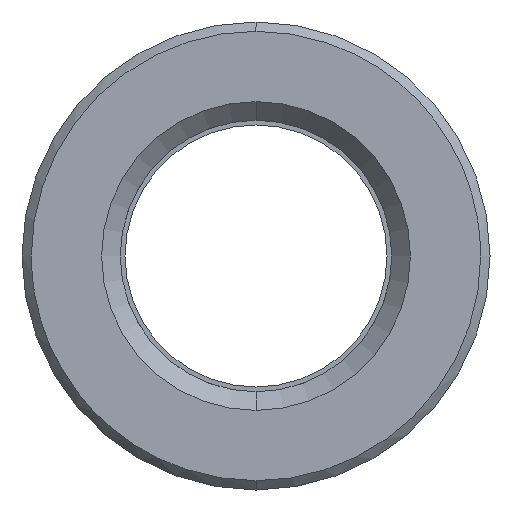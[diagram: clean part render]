
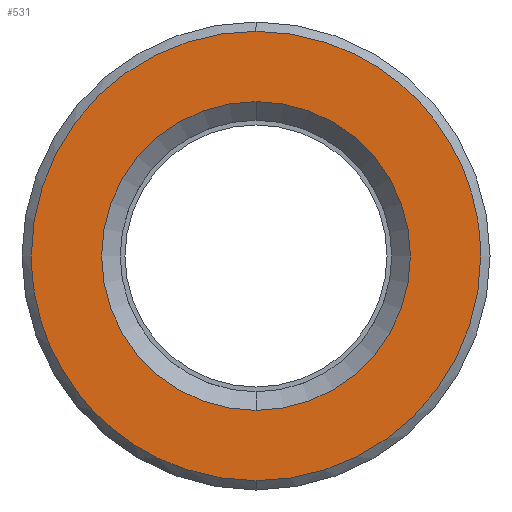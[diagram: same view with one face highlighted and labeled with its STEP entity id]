
A CAD part, left-side view. The second image highlights one B-rep face of the part: STEP entity #531.
In plain terms, the highlighted planar face has unit normal (-1, 0, 0).
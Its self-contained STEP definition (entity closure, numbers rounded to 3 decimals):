
#311=CARTESIAN_POINT('Axis2P3D Location',(0.,0.,0.)) ;
#315=CARTESIAN_POINT('Vertex',(0.,8.25,0.)) ;
#317=CARTESIAN_POINT('Vertex',(0.,0.,8.25)) ;
#320=CARTESIAN_POINT('Axis2P3D Location',(0.,0.,0.)) ;
#324=CARTESIAN_POINT('Vertex',(0.,0.,-8.25)) ;
#351=CARTESIAN_POINT('Axis2P3D Location',(0.,0.,0.)) ;
#355=CARTESIAN_POINT('Vertex',(0.,-8.25,0.)) ;
#358=CARTESIAN_POINT('Axis2P3D Location',(0.,0.,0.)) ;
#438=CARTESIAN_POINT('Axis2P3D Location',(0.,12.,0.)) ;
#444=CARTESIAN_POINT('Control Point',(0.,0.,-12.)) ;
#445=CARTESIAN_POINT('Control Point',(0.,0.982,-12.)) ;
#446=CARTESIAN_POINT('Control Point',(0.,1.964,-11.9)) ;
#447=CARTESIAN_POINT('Control Point',(0.,2.932,-11.699)) ;
#448=CARTESIAN_POINT('Control Point',(0.,5.011,-11.039)) ;
#449=CARTESIAN_POINT('Control Point',(0.,6.895,-9.93)) ;
#450=CARTESIAN_POINT('Control Point',(0.,7.845,-9.197)) ;
#451=CARTESIAN_POINT('Control Point',(0.,9.546,-7.512)) ;
#452=CARTESIAN_POINT('Control Point',(0.,10.784,-5.463)) ;
#453=CARTESIAN_POINT('Control Point',(0.,11.273,-4.367)) ;
#454=CARTESIAN_POINT('Control Point',(0.,11.741,-2.824)) ;
#455=CARTESIAN_POINT('Control Point',(0.,11.947,-1.236)) ;
#456=CARTESIAN_POINT('Control Point',(0.,11.982,-0.824)) ;
#457=CARTESIAN_POINT('Control Point',(0.,12.,-0.412)) ;
#458=CARTESIAN_POINT('Control Point',(0.,12.,0.)) ;
#459=CARTESIAN_POINT('Vertex',(0.,0.,-12.)) ;
#461=CARTESIAN_POINT('Vertex',(0.,12.,0.)) ;
#465=CARTESIAN_POINT('Control Point',(0.,-12.,0.)) ;
#466=CARTESIAN_POINT('Control Point',(0.,-12.,-1.188)) ;
#467=CARTESIAN_POINT('Control Point',(0.,-11.853,-2.376)) ;
#468=CARTESIAN_POINT('Control Point',(0.,-11.559,-3.54)) ;
#469=CARTESIAN_POINT('Control Point',(0.,-10.689,-5.77)) ;
#470=CARTESIAN_POINT('Control Point',(0.,-9.302,-7.721)) ;
#471=CARTESIAN_POINT('Control Point',(0.,-8.49,-8.605)) ;
#472=CARTESIAN_POINT('Control Point',(0.,-6.665,-10.155)) ;
#473=CARTESIAN_POINT('Control Point',(0.,-4.518,-11.213)) ;
#474=CARTESIAN_POINT('Control Point',(0.,-3.384,-11.606)) ;
#475=CARTESIAN_POINT('Control Point',(0.,-2.01,-11.897)) ;
#476=CARTESIAN_POINT('Control Point',(0.,-0.618,-11.987)) ;
#477=CARTESIAN_POINT('Control Point',(0.,-0.412,-11.996)) ;
#478=CARTESIAN_POINT('Control Point',(0.,-0.206,-12.)) ;
#479=CARTESIAN_POINT('Control Point',(0.,0.,-12.)) ;
#480=CARTESIAN_POINT('Vertex',(0.,-12.,0.)) ;
#484=CARTESIAN_POINT('Control Point',(0.,0.,12.)) ;
#485=CARTESIAN_POINT('Control Point',(0.,-0.982,12.)) ;
#486=CARTESIAN_POINT('Control Point',(0.,-1.964,11.9)) ;
#487=CARTESIAN_POINT('Control Point',(0.,-2.932,11.699)) ;
#488=CARTESIAN_POINT('Control Point',(0.,-5.011,11.039)) ;
#489=CARTESIAN_POINT('Control Point',(0.,-6.895,9.93)) ;
#490=CARTESIAN_POINT('Control Point',(0.,-7.845,9.197)) ;
#491=CARTESIAN_POINT('Control Point',(0.,-9.546,7.512)) ;
#492=CARTESIAN_POINT('Control Point',(0.,-10.784,5.463)) ;
#493=CARTESIAN_POINT('Control Point',(0.,-11.273,4.367)) ;
#494=CARTESIAN_POINT('Control Point',(0.,-11.741,2.824)) ;
#495=CARTESIAN_POINT('Control Point',(0.,-11.947,1.236)) ;
#496=CARTESIAN_POINT('Control Point',(0.,-11.982,0.824)) ;
#497=CARTESIAN_POINT('Control Point',(0.,-12.,0.412)) ;
#498=CARTESIAN_POINT('Control Point',(0.,-12.,0.)) ;
#499=CARTESIAN_POINT('Vertex',(0.,0.,12.)) ;
#503=CARTESIAN_POINT('Control Point',(0.,12.,0.)) ;
#504=CARTESIAN_POINT('Control Point',(0.,12.,1.188)) ;
#505=CARTESIAN_POINT('Control Point',(0.,11.853,2.376)) ;
#506=CARTESIAN_POINT('Control Point',(0.,11.559,3.54)) ;
#507=CARTESIAN_POINT('Control Point',(0.,10.689,5.77)) ;
#508=CARTESIAN_POINT('Control Point',(0.,9.302,7.721)) ;
#509=CARTESIAN_POINT('Control Point',(0.,8.49,8.605)) ;
#510=CARTESIAN_POINT('Control Point',(0.,6.665,10.155)) ;
#511=CARTESIAN_POINT('Control Point',(0.,4.518,11.213)) ;
#512=CARTESIAN_POINT('Control Point',(0.,3.384,11.606)) ;
#513=CARTESIAN_POINT('Control Point',(0.,2.01,11.897)) ;
#514=CARTESIAN_POINT('Control Point',(0.,0.618,11.987)) ;
#515=CARTESIAN_POINT('Control Point',(0.,0.412,11.996)) ;
#516=CARTESIAN_POINT('Control Point',(0.,0.206,12.)) ;
#517=CARTESIAN_POINT('Control Point',(0.,0.,12.)) ;
#312=DIRECTION('Axis2P3D Direction',(-1.,0.,0.)) ;
#321=DIRECTION('Axis2P3D Direction',(-1.,0.,0.)) ;
#352=DIRECTION('Axis2P3D Direction',(-1.,0.,0.)) ;
#359=DIRECTION('Axis2P3D Direction',(-1.,0.,0.)) ;
#439=DIRECTION('Axis2P3D Direction',(-1.,0.,0.)) ;
#440=DIRECTION('Axis2P3D XDirection',(0.,0.,1.)) ;
#313=AXIS2_PLACEMENT_3D('Circle Axis2P3D',#311,#312,$) ;
#322=AXIS2_PLACEMENT_3D('Circle Axis2P3D',#320,#321,$) ;
#353=AXIS2_PLACEMENT_3D('Circle Axis2P3D',#351,#352,$) ;
#360=AXIS2_PLACEMENT_3D('Circle Axis2P3D',#358,#359,$) ;
#441=AXIS2_PLACEMENT_3D('Plane Axis2P3D',#438,#439,#440) ;
#520=ORIENTED_EDGE('',*,*,#463,.F.) ;
#521=ORIENTED_EDGE('',*,*,#482,.F.) ;
#522=ORIENTED_EDGE('',*,*,#501,.F.) ;
#523=ORIENTED_EDGE('',*,*,#518,.F.) ;
#526=ORIENTED_EDGE('',*,*,#319,.T.) ;
#527=ORIENTED_EDGE('',*,*,#362,.T.) ;
#528=ORIENTED_EDGE('',*,*,#357,.T.) ;
#529=ORIENTED_EDGE('',*,*,#326,.T.) ;
#530=FACE_BOUND('',#525,.T.) ;
#531=ADVANCED_FACE('553-14x66',(#524,#530),#442,.T.) ;
#443=B_SPLINE_CURVE_WITH_KNOTS('',5,(#444,#445,#446,#447,#448,#449,#450,#451,#452,#453,#454,#455,#456,#457,#458),.UNSPECIFIED.,.F.,.U.,(6,3,3,3,6),(26.657,33.6,42.,50.399,53.312),.UNSPECIFIED.) ;
#464=B_SPLINE_CURVE_WITH_KNOTS('',5,(#465,#466,#467,#468,#469,#470,#471,#472,#473,#474,#475,#476,#477,#478,#479),.UNSPECIFIED.,.F.,.U.,(6,3,3,3,6),(0.,8.4,16.8,25.2,26.657),.UNSPECIFIED.) ;
#483=B_SPLINE_CURVE_WITH_KNOTS('',5,(#484,#485,#486,#487,#488,#489,#490,#491,#492,#493,#494,#495,#496,#497,#498),.UNSPECIFIED.,.F.,.U.,(6,3,3,3,6),(26.657,33.6,42.,50.399,53.312),.UNSPECIFIED.) ;
#502=B_SPLINE_CURVE_WITH_KNOTS('',5,(#503,#504,#505,#506,#507,#508,#509,#510,#511,#512,#513,#514,#515,#516,#517),.UNSPECIFIED.,.F.,.U.,(6,3,3,3,6),(0.,8.4,16.8,25.2,26.657),.UNSPECIFIED.) ;
#314=CIRCLE('generated circle',#313,8.25) ;
#323=CIRCLE('generated circle',#322,8.25) ;
#354=CIRCLE('generated circle',#353,8.25) ;
#361=CIRCLE('generated circle',#360,8.25) ;
#319=EDGE_CURVE('',#316,#318,#314,.F.) ;
#326=EDGE_CURVE('',#325,#316,#323,.F.) ;
#357=EDGE_CURVE('',#356,#325,#354,.F.) ;
#362=EDGE_CURVE('',#318,#356,#361,.F.) ;
#463=EDGE_CURVE('',#460,#462,#443,.T.) ;
#482=EDGE_CURVE('',#481,#460,#464,.T.) ;
#501=EDGE_CURVE('',#500,#481,#483,.T.) ;
#518=EDGE_CURVE('',#462,#500,#502,.T.) ;
#519=EDGE_LOOP('',(#520,#521,#522,#523)) ;
#525=EDGE_LOOP('',(#526,#527,#528,#529)) ;
#524=FACE_OUTER_BOUND('',#519,.T.) ;
#442=PLANE('Plane',#441) ;
#316=VERTEX_POINT('',#315) ;
#318=VERTEX_POINT('',#317) ;
#325=VERTEX_POINT('',#324) ;
#356=VERTEX_POINT('',#355) ;
#460=VERTEX_POINT('',#459) ;
#462=VERTEX_POINT('',#461) ;
#481=VERTEX_POINT('',#480) ;
#500=VERTEX_POINT('',#499) ;
